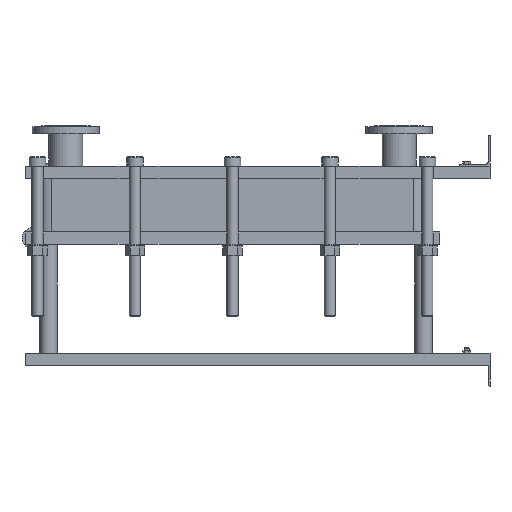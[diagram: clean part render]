
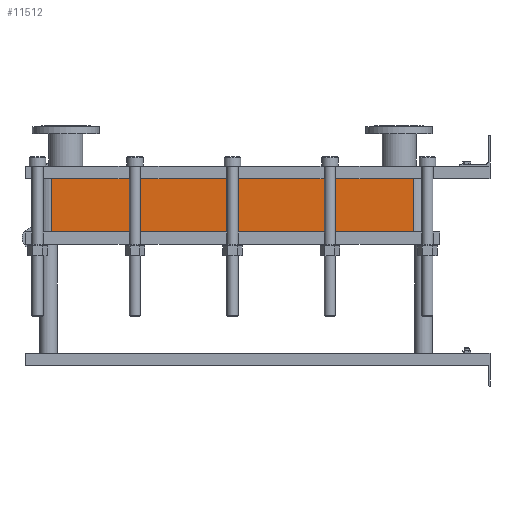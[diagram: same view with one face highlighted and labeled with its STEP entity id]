
A CAD part, left-side view. The second image highlights one B-rep face of the part: STEP entity #11512.
In plain terms, the highlighted planar face has unit normal (-1, 0, 0).
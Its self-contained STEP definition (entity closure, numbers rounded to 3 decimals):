
#1129=LINE('',#23232,#2102);
#1130=LINE('',#23236,#2103);
#1131=LINE('',#23238,#2104);
#1132=LINE('',#23239,#2105);
#2102=VECTOR('',#15887,10.);
#2103=VECTOR('',#15892,10.);
#2104=VECTOR('',#15893,10.);
#2105=VECTOR('',#15894,10.);
#3267=FACE_OUTER_BOUND('',#4093,.T.);
#4093=EDGE_LOOP('',(#10103,#10104,#10105,#10106));
#5642=VERTEX_POINT('',#23229);
#5643=VERTEX_POINT('',#23231);
#5644=VERTEX_POINT('',#23235);
#5645=VERTEX_POINT('',#23237);
#7159=EDGE_CURVE('',#5643,#5642,#1129,.T.);
#7161=EDGE_CURVE('',#5642,#5644,#1130,.T.);
#7162=EDGE_CURVE('',#5645,#5644,#1131,.T.);
#7163=EDGE_CURVE('',#5645,#5643,#1132,.T.);
#10103=ORIENTED_EDGE('',*,*,#7161,.T.);
#10104=ORIENTED_EDGE('',*,*,#7162,.F.);
#10105=ORIENTED_EDGE('',*,*,#7163,.T.);
#10106=ORIENTED_EDGE('',*,*,#7159,.T.);
#10857=PLANE('',#12751);
#11512=ADVANCED_FACE('',(#3267),#10857,.T.);
#12751=AXIS2_PLACEMENT_3D('',#23234,#15890,#15891);
#15887=DIRECTION('',(0.,0.,-1.));
#15890=DIRECTION('center_axis',(-1.,0.,0.));
#15891=DIRECTION('ref_axis',(0.,1.,0.));
#15892=DIRECTION('',(0.,-1.,0.));
#15893=DIRECTION('',(0.,0.,-1.));
#15894=DIRECTION('',(0.,1.,0.));
#23229=CARTESIAN_POINT('',(-200.,1414.,-172.5));
#23231=CARTESIAN_POINT('',(-200.,1414.,0.));
#23232=CARTESIAN_POINT('',(-200.,1414.,0.));
#23234=CARTESIAN_POINT('Origin',(-200.,248.,0.));
#23235=CARTESIAN_POINT('',(-200.,248.,-172.5));
#23236=CARTESIAN_POINT('',(-200.,539.5,-172.5));
#23237=CARTESIAN_POINT('',(-200.,248.,0.));
#23238=CARTESIAN_POINT('',(-200.,248.,0.));
#23239=CARTESIAN_POINT('',(-200.,248.,0.));
